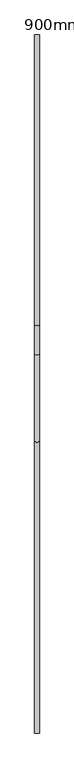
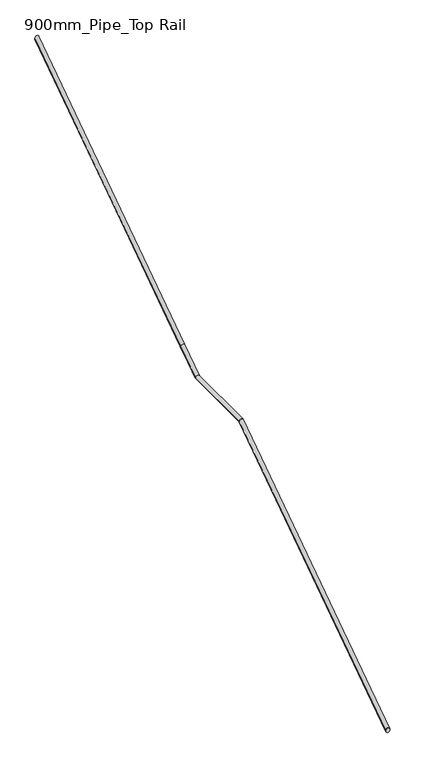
"""IFC4 building model written with IfcOpenShell, lengths in millimetres: railing geometry, 900mm_Pipe_Top Rail."""

import ifcopenshell
import ifcopenshell.guid

model = None  # the IFC model being written
_history = None  # IfcOwnerHistory: only IFC2X3 demands one
_inside = {}  # id of a spatial element -> (the spatial element, [elements in it])
_under = {}  # id of a project, library or spatial element -> (it, [spatial elements below it])
_declared = {}  # id of a project -> (the project, [libraries it declares])
_typed = {}  # id of a type object -> (the type object, [elements of that type])
_made_of = {}  # id of a material, layer set ... -> (it, [elements and type objects made of it])


def new_model(schema):
    """Start an empty IFC model of exactly this schema.

    Asked for "IFC4X3", IfcOpenShell would pick the latest addendum, in which some entities
    have other attributes; the version numbers below select the first issue.
    IFC2X3 requires an IfcOwnerHistory on every rooted entity: one is made here for all.
    """
    global model, _history
    if schema == "IFC4X3":
        model = ifcopenshell.file(schema_version=(4, 3, 0, 0))
    else:
        model = ifcopenshell.file(schema=schema)
    _inside.clear()
    _under.clear()
    _declared.clear()
    _typed.clear()
    _made_of.clear()
    _history = None
    if model.schema == "IFC2X3":
        org = make("IfcOrganization", Name="unknown")
        user = make(
            "IfcPersonAndOrganization",
            ThePerson=make("IfcPerson", FamilyName="unknown"),
            TheOrganization=org,
        )
        app = make(
            "IfcApplication",
            ApplicationDeveloper=org,
            Version="unknown",
            ApplicationFullName="unknown",
            ApplicationIdentifier="unknown",
        )
        _history = make(
            "IfcOwnerHistory",
            OwningUser=user,
            OwningApplication=app,
            ChangeAction="ADDED",
            CreationDate=0,
        )
    return model


def make(cls, **values):
    """One entity of the class cls with the attributes given. An attribute that is None is left unset."""
    return model.create_entity(
        cls, **{name: value for name, value in values.items() if value is not None}
    )


def rooted(cls, **values):
    """An entity with a GlobalId (a new one), such as an element, a storey or a relation."""
    return make(cls, GlobalId=ifcopenshell.guid.new(), OwnerHistory=_history, **values)


def si_unit(unit_type, name, prefix=None):
    """IfcSIUnit, for example si_unit("LENGTHUNIT", "METRE", prefix="MILLI")."""
    return make("IfcSIUnit", UnitType=unit_type, Prefix=prefix, Name=name)


def assignment(units):
    """IfcUnitAssignment: the units of a project."""
    return None if units is None else make("IfcUnitAssignment", Units=units)


def point(xyz):
    """IfcCartesianPoint."""
    return None if xyz is None else make("IfcCartesianPoint", Coordinates=xyz)


def direction(xyz):
    """IfcDirection."""
    return None if xyz is None else make("IfcDirection", DirectionRatios=xyz)


def frame(location, z_axis=None, x_axis=None):
    """IfcAxis2Placement3D, a coordinate frame: its origin and axes. An axis left out is left unset."""
    return make(
        "IfcAxis2Placement3D",
        Location=point(location),
        Axis=direction(z_axis),
        RefDirection=direction(x_axis),
    )


def origin():
    """The frame at (0, 0, 0) with its axes left unset."""
    return frame((0.0, 0.0, 0.0))


def place(relative_to, where):
    """IfcLocalPlacement: puts the frame where relative to a parent placement (None: the world)."""
    return make(
        "IfcLocalPlacement", PlacementRelTo=relative_to, RelativePlacement=where
    )


def context(
    kind, dimensions, precision=None, world=None, true_north=None, identifier=None
):
    """IfcGeometricRepresentationContext, for example the 3D "Model" context."""
    return make(
        "IfcGeometricRepresentationContext",
        ContextIdentifier=identifier,
        ContextType=kind,
        CoordinateSpaceDimension=dimensions,
        Precision=precision,
        WorldCoordinateSystem=world,
        TrueNorth=true_north,
    )


def project(units=None, contexts=None):
    """IfcProject with its units and contexts."""
    return rooted(
        "IfcProject",
        Name="project",
        RepresentationContexts=contexts,
        UnitsInContext=assignment(units),
    )


def spatial(cls, under=None, at=None, **own):
    """A site, building, storey or space (cls), placed at a placement, below another one or the project."""
    s = rooted(cls, ObjectPlacement=at, **own)
    if under is not None:
        _under.setdefault(under.id(), (under, []))[1].append(s)
    return s


def circle_curve(where, radius):
    """IfcCircle in the frame where."""
    return make("IfcCircle", Position=where, Radius=radius)


def ellipse_curve(where, semi_axis1, semi_axis2):
    """IfcEllipse in the frame where."""
    return make(
        "IfcEllipse", Position=where, SemiAxis1=semi_axis1, SemiAxis2=semi_axis2
    )


def shape(context_of_items, identifier, shape_type, items):
    """IfcShapeRepresentation: the items that make up one representation, for example the "Body"."""
    return make(
        "IfcShapeRepresentation",
        ContextOfItems=context_of_items,
        RepresentationIdentifier=identifier,
        RepresentationType=shape_type,
        Items=items,
    )


def source(mapping_origin, context_of_items, identifier, shape_type, items):
    """IfcRepresentationMap: a shape defined once, which mapped items show again and again."""
    return make(
        "IfcRepresentationMap",
        MappingOrigin=mapping_origin,
        MappedRepresentation=shape(context_of_items, identifier, shape_type, items),
    )


def transform(
    local_origin,
    x_axis=None,
    y_axis=None,
    z_axis=None,
    scale=None,
    scale2=None,
    scale3=None,
    uniform=True,
):
    """IfcCartesianTransformationOperator3D, or its non-uniform kind. x_axis, y_axis, z_axis: its Axis1, 2, 3."""
    if uniform:
        return make(
            "IfcCartesianTransformationOperator3D",
            Axis1=direction(x_axis),
            Axis2=direction(y_axis),
            LocalOrigin=point(local_origin),
            Scale=scale,
            Axis3=direction(z_axis),
        )
    return make(
        "IfcCartesianTransformationOperator3DnonUniform",
        Axis1=direction(x_axis),
        Axis2=direction(y_axis),
        LocalOrigin=point(local_origin),
        Scale=scale,
        Axis3=direction(z_axis),
        Scale2=scale2,
        Scale3=scale3,
    )


def mapped(mapping_source, mapping_target):
    """IfcMappedItem: shows the shape of a source again, moved by a transform."""
    return make(
        "IfcMappedItem", MappingSource=mapping_source, MappingTarget=mapping_target
    )


def made_of(thing, what):
    """Note that an element or type object is made of a material, layer set ...; save() writes the relation."""
    if what is not None:
        _made_of.setdefault(what.id(), (what, []))[1].append(thing)
    return thing


def element(
    cls,
    number,
    at=None,
    inside=None,
    cuts=None,
    type_object=None,
    material=None,
    context=None,
    identifier="Body",
    shape_type=None,
    held_by="IfcProductDefinitionShape",
    body=None,
    shapes=None,
    **own,
):
    """One element of the class cls, such as IfcWall. Its Tag is "e" and its number.

    at: its placement. inside: the storey or other place that contains it. cuts: it is an
    opening in that element (IfcRelVoidsElement). A single representation is given by context,
    identifier, shape_type and body (its items); several are given by shapes. held_by: the class
    of the entity that holds the representations. save() writes the other relations.
    """
    e = rooted(cls, Tag="e%d" % number, ObjectPlacement=at, **own)
    if body is not None:
        shapes = [shape(context, identifier, shape_type, body)]
    if shapes is not None:
        e.Representation = make(held_by, Representations=shapes)
    if inside is not None:
        _inside.setdefault(inside.id(), (inside, []))[1].append(e)
    if cuts is not None:
        rooted(
            "IfcRelVoidsElement", RelatingBuildingElement=cuts, RelatedOpeningElement=e
        )
    if type_object is not None:
        _typed.setdefault(type_object.id(), (type_object, []))[1].append(e)
    return made_of(e, material)


def aggregate(whole, parts):
    """IfcRelAggregates: a whole, such as a stair, and the parts it consists of."""
    return rooted("IfcRelAggregates", RelatingObject=whole, RelatedObjects=parts)


def save(model, path):
    """Write the relations noted so far, then the file.

    IfcRelAggregates (storeys below a building ...), IfcRelContainedInSpatialStructure (elements
    in a storey), IfcRelDefinesByType, IfcRelAssociatesMaterial and IfcRelDeclares: one each for
    every whole, place, type object, material and project.
    """
    for whole, parts in _under.values():
        aggregate(whole, parts)
    for where, things in _inside.values():
        rooted(
            "IfcRelContainedInSpatialStructure",
            RelatedElements=things,
            RelatingStructure=where,
        )
    for kind, things in _typed.values():
        rooted("IfcRelDefinesByType", RelatedObjects=things, RelatingType=kind)
    for what, things in _made_of.values():
        rooted("IfcRelAssociatesMaterial", RelatedObjects=things, RelatingMaterial=what)
    for by, libraries in _declared.values():
        rooted("IfcRelDeclares", RelatingContext=by, RelatedDefinitions=libraries)
    model.write(path)


def plane_surface(at):
    """IfcPlane: the flat surface through the origin of the frame at, square to its z axis."""
    return make("IfcPlane", Position=at)


def cylinder_surface(at, radius):
    """IfcCylindricalSurface: all points at the distance radius from the z axis of the frame at."""
    return make("IfcCylindricalSurface", Position=at, Radius=radius)


def advanced_brep(points, edges, surfaces, faces):
    """IfcAdvancedBrep: a solid bounded by faces that lie on surfaces and meet in shared edges.

    An edge is (start, end): straight between two places in points (the first is 0);
    or (start, end, curve); or (start, end, curve, False) where it runs against its curve.
    A face is (place in surfaces, loops), or (place, loops, False) where it looks against
    its surface's normal. A loop lists edges by number (the first is 1), with a minus sign
    where the edge is run from its end to its start. The first loop is the outer one.
    """
    corners = [point(p) for p in points]
    vertices = [make("IfcVertexPoint", VertexGeometry=c) for c in corners]
    made = []
    for start, end, *more in edges:
        made.append(
            make(
                "IfcEdgeCurve",
                EdgeStart=vertices[start],
                EdgeEnd=vertices[end],
                EdgeGeometry=more[0] if more else make("IfcPolyline", Points=[corners[start], corners[end]]),
                SameSense=more[1] if len(more) > 1 else True,
            )
        )
    hull = []
    for where, loops, *sense in faces:
        bounds = []
        for j, loop in enumerate(loops):
            ring = [make("IfcOrientedEdge", EdgeElement=made[abs(k) - 1], Orientation=k > 0) for k in loop]
            bounds.append(
                make(
                    "IfcFaceOuterBound" if j == 0 else "IfcFaceBound",
                    Bound=make("IfcEdgeLoop", EdgeList=ring),
                    Orientation=True,
                )
            )
        hull.append(make("IfcAdvancedFace", Bounds=bounds, FaceSurface=surfaces[where], SameSense=sense[0] if sense else True))
    return make("IfcAdvancedBrep", Outer=make("IfcClosedShell", CfsFaces=hull))


def railing_900mm_pipe_top_rail_164bb325(model_context):
    return source(origin(), model_context, "Body", "AdvancedBrep", [
        advanced_brep(
        [(7419.0763518, 882.5459718, 19806.2481328), (7379.0763518, 882.5459718, 19806.2481328), (7419.0763518, 3388.715377, 21515.0), (7379.0763518, 3388.715377, 21515.0), (7419.0763518, 4138.7153847, 21515.0), (7379.0763518, 4138.7153847, 21515.0), (7419.0763518, 4393.812716, 21688.9299986), (7379.0763518, 4393.812716, 21688.9299986), (7419.0763518, 6882.5459795, 23385.7935874), (7379.0763518, 6882.5459795, 23385.7935874)],
        [
            (0, 1, ellipse_curve(frame((7399.0763518, 882.5459718, 19806.2481328), z_axis=(0.0, -1.0, 0.0), x_axis=(0.0, 0.0, -1.0)), 24.2064126, 20.0)),
            (1, 0, ellipse_curve(frame((7399.0763518, 882.5459718, 19806.2481328), z_axis=(0.0, -1.0, 0.0), x_axis=(0.0, 0.0, -1.0)), 24.2064126, 20.0)),
            (0, 2),
            (2, 3, ellipse_curve(frame((7399.0763518, 3388.715377, 21515.0), z_axis=(0.0, -0.9555698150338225, -0.2947648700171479), x_axis=(0.0, 0.2947648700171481, -0.9555698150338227)), 20.9299202, 20.0)),
            (3, 1),
            (3, 2, ellipse_curve(frame((7399.0763518, 3388.715377, 21515.0), z_axis=(0.0, -0.9555698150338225, -0.2947648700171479), x_axis=(0.0, 0.2947648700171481, -0.9555698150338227)), 20.9299202, 20.0)),
            (2, 4),
            (4, 5, ellipse_curve(frame((7399.0763518, 4138.7153847, 21515.0), z_axis=(0.0, -0.9555698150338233, -0.2947648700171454), x_axis=(0.0, -0.2947648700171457, 0.9555698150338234)), 20.9299202, 20.0)),
            (5, 3),
            (5, 4, ellipse_curve(frame((7399.0763518, 4138.7153847, 21515.0), z_axis=(0.0, -0.9555698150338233, -0.2947648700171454), x_axis=(0.0, -0.2947648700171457, 0.9555698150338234)), 20.9299202, 20.0)),
            (4, 6),
            (6, 7, circle_curve(frame((7399.0763518, 4393.812716, 21688.9299986), z_axis=(0.0, -0.8262273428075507, -0.5633368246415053), x_axis=(-1.0, 0.0, 0.0)), 20.0)),
            (7, 5),
            (7, 6, circle_curve(frame((7399.0763518, 4393.812716, 21688.9299986), z_axis=(0.0, -0.8262273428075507, -0.5633368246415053), x_axis=(-1.0, 0.0, 0.0)), 20.0)),
            (8, 9, ellipse_curve(frame((7399.0763518, 6882.5459795, 23385.7935874), z_axis=(0.0, 1.0, 0.0), x_axis=(0.0, 0.0, -1.0)), 24.2064126, 20.0)),
            (9, 8, ellipse_curve(frame((7399.0763518, 6882.5459795, 23385.7935874), z_axis=(0.0, 1.0, 0.0), x_axis=(0.0, 0.0, -1.0)), 24.2064126, 20.0)),
            (6, 8),
            (9, 7),
        ],
        [
            plane_surface(frame((7399.0763518, 882.5459718, 19830.4545455), z_axis=(0.0, -1.0, 0.0), x_axis=(0.0, 0.0, 1.0))),
            cylinder_surface(frame((7399.0763518, 893.8127083, 19813.9299986), z_axis=(0.0, -0.8262273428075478, -0.5633368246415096), x_axis=(-1.0, 0.0, 0.0)), 20.0),
            cylinder_surface(frame((7399.0763518, 3382.5459718, 21515.0), z_axis=(0.0, -1.0, 0.0), x_axis=(-1.0, 0.0, 0.0)), 20.0),
            cylinder_surface(frame((7399.0763518, 4143.812716, 21518.4754531), z_axis=(0.0, -0.8262273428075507, -0.5633368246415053), x_axis=(-1.0, 0.0, 0.0)), 20.0),
            plane_surface(frame((7399.0763518, 6882.5459795, 23410.0), z_axis=(0.0, 1.0, 0.0), x_axis=(0.0, 0.0, 1.0))),
            cylinder_surface(frame((7399.0763518, 4393.812716, 21688.9299986), z_axis=(0.0, -0.8262273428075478, -0.5633368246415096), x_axis=(-1.0, 0.0, 0.0)), 20.0),
        ],
        [
            (0, [[1, 2]]),
            (1, [[-1, 3, 4, 5]]),
            (1, [[-2, -5, 6, -3]]),
            (2, [[-4, 7, 8, 9]]),
            (2, [[-6, -9, 10, -7]]),
            (3, [[-8, 11, 12, 13]]),
            (3, [[-10, -13, 14, -11]]),
            (4, [[15, 16]]),
            (5, [[-12, 17, -16, 18]]),
            (5, [[-14, -18, -15, -17]]),
        ],
    ),
    ])


if __name__ == "__main__":
    model = new_model("IFC4")
    model_context = context("Model", 3, world=origin())
    ifc_project = project(units=[si_unit("LENGTHUNIT", "METRE", prefix="MILLI")], contexts=[model_context])
    site = spatial("IfcSite", under=ifc_project)
    building = spatial("IfcBuilding", under=site)
    placement = place(None, origin())
    railing_900mm_pipe_top_rail_shape = railing_900mm_pipe_top_rail_164bb325(model_context)
    element("IfcRailing", 1, ObjectType="900mm_Pipe_Top Rail", at=placement, inside=building, context=model_context, shape_type="MappedRepresentation", body=[
        mapped(railing_900mm_pipe_top_rail_shape, transform((0.0, 0.0, 0.0), x_axis=(1.0, 0.0, 0.0), y_axis=(0.0, 1.0, 0.0), z_axis=(0.0, 0.0, 1.0))),
    ])
    save(model, "model.ifc")
